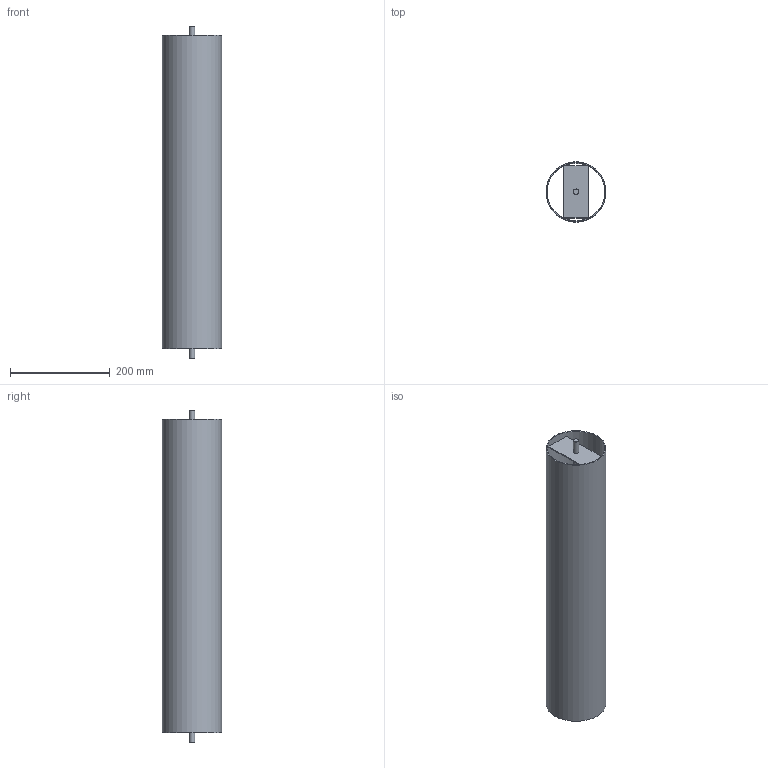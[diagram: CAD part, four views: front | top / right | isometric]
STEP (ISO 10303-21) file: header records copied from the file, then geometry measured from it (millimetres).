
FILE_DESCRIPTION( ( 'STEP AP214' ), '1' );
FILE_NAME( 'D:/Yug/2021/Delta/desk_and_office_organisation/QC/45827.stp', '2021-01-20T06:06:30', ( '' ), ( '' ), ' ', 'PARTsolutions', ' ' );
FILE_SCHEMA( ( 'AUTOMOTIVE_DESIGN { 1 0 10303 214 1 1 1 1 }' ) );
Length unit declared in the file: millimetre
Products named in the file (1): _45827
Bounding box: 120 x 120 x 666 mm (x, y, z)
Volume: 550202.5 mm3; surface area: 512696.8 mm2
Topology: 1 solids, 1 shells, 21 faces, 63 edges, 42 vertices
Faces by surface type: plane 16, cylinder 5
Full cylindrical faces by diameter (mm): 11 x3, 116 x1, 120 x1
Entity records: 914 total; most frequent: DIRECTION 128, CARTESIAN_POINT 122, ORIENTED_EDGE 116, EDGE_CURVE 58, AXIS2_PLACEMENT_3D 48, VERTEX_POINT 42, EDGE_LOOP 40, LINE 32
